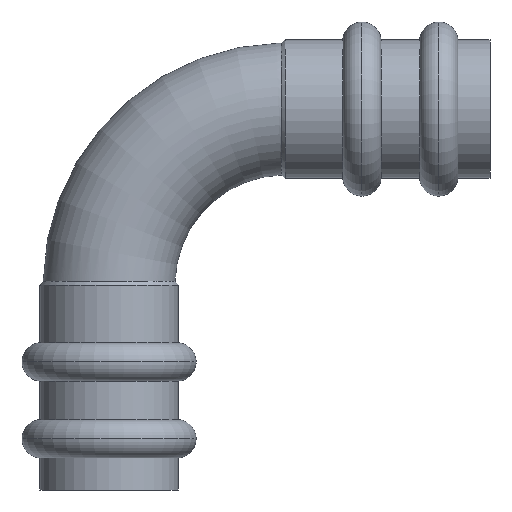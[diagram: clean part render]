
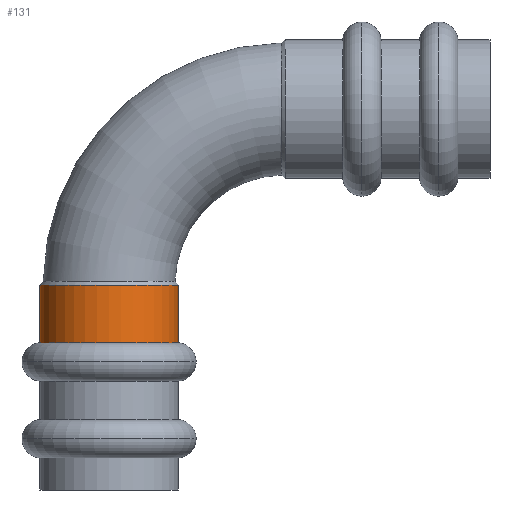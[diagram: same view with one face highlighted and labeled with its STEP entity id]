
A CAD part, front view. The second image highlights one B-rep face of the part: STEP entity #131.
In plain terms, the highlighted cylindrical face has radius 10.8 mm (diameter 21.6 mm), a partial arc.
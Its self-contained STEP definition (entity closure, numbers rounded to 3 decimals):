
#131=ADVANCED_FACE('',(#307),#308,.T.);
#307=FACE_OUTER_BOUND('',#543,.T.);
#308=CYLINDRICAL_SURFACE('',#544,10.8);
#543=EDGE_LOOP('',(#863,#864,#865,#866));
#544=AXIS2_PLACEMENT_3D('',#867,#868,#869);
#863=ORIENTED_EDGE('',*,*,#1356,.F.);
#864=ORIENTED_EDGE('',*,*,#1357,.T.);
#865=ORIENTED_EDGE('',*,*,#1358,.F.);
#866=ORIENTED_EDGE('',*,*,#1359,.F.);
#867=CARTESIAN_POINT('',(0.,0.0,27.5));
#868=DIRECTION('',(0.,0.0,-1.0));
#869=DIRECTION('',(1.0,0.0,0.));
#1356=EDGE_CURVE('',#1611,#1612,#1613,.T.);
#1357=EDGE_CURVE('',#1611,#1614,#1615,.T.);
#1358=EDGE_CURVE('',#1616,#1614,#1617,.T.);
#1359=EDGE_CURVE('',#1612,#1616,#1618,.T.);
#1611=VERTEX_POINT('',#2052);
#1612=VERTEX_POINT('',#2053);
#1613=LINE('',#2054,#2055);
#1614=VERTEX_POINT('',#2056);
#1615=CIRCLE('',#2057,10.8);
#1616=VERTEX_POINT('',#2058);
#1617=LINE('',#2059,#2060);
#1618=CIRCLE('',#2061,10.8);
#2052=CARTESIAN_POINT('',(10.8,0.,32.));
#2053=CARTESIAN_POINT('',(10.8,0.,23.));
#2054=CARTESIAN_POINT('',(10.8,0.,27.5));
#2055=VECTOR('',#2548,1.0);
#2056=CARTESIAN_POINT('',(-10.8,0.,32.));
#2057=AXIS2_PLACEMENT_3D('',#2549,#2550,#2551);
#2058=CARTESIAN_POINT('',(-10.8,0.,23.));
#2059=CARTESIAN_POINT('',(-10.8,0.,27.5));
#2060=VECTOR('',#2552,1.0);
#2061=AXIS2_PLACEMENT_3D('',#2553,#2554,#2555);
#2548=DIRECTION('',(0.,0.0,-1.0));
#2549=CARTESIAN_POINT('',(0.,0.0,32.));
#2550=DIRECTION('',(0.,0.0,-1.0));
#2551=DIRECTION('',(1.0,0.0,0.));
#2552=DIRECTION('',(0.,-0.0,1.0));
#2553=CARTESIAN_POINT('',(0.,0.0,23.));
#2554=DIRECTION('',(0.,0.0,-1.0));
#2555=DIRECTION('',(1.0,0.0,0.));
